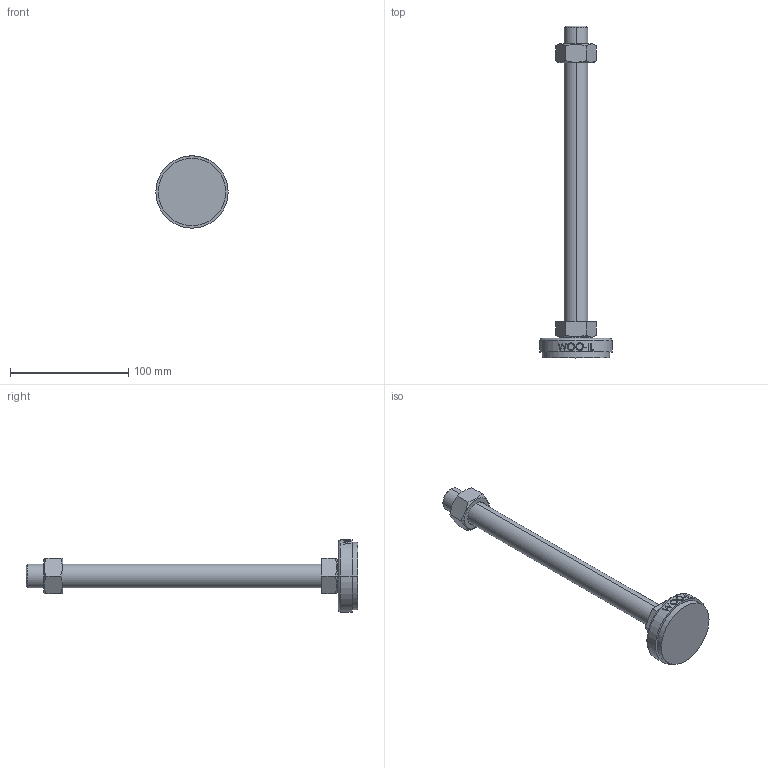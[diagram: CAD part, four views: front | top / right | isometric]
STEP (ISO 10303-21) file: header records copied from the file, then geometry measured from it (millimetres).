
FILE_DESCRIPTION (( 'STEP AP214' ), '1' );
FILE_NAME ('NS61-M20-250.step', '2021-01-11T05:47:00', ( '' ), ( '' ), 'SwSTEP 2.0', 'SolidWorks 2019', '' );
FILE_SCHEMA (( 'AUTOMOTIVE_DESIGN' ));
Length unit declared in the file: millimetre
Products named in the file (2): NS61-M20-250
Bounding box: 61 x 280.5 x 61 mm (x, y, z)
Volume: 142672.2 mm3; surface area: 30835.3 mm2
Topology: 3 solids, 3 shells, 96 faces, 223 edges, 144 vertices
Faces by surface type: plane 48, cylinder 18, bspline 16, cone 12, torus 2
Entity records: 4264 total; most frequent: CARTESIAN_POINT 2139, ORIENTED_EDGE 446, DIRECTION 381, EDGE_CURVE 223, VERTEX_POINT 144, AXIS2_PLACEMENT_3D 142, EDGE_LOOP 109, VECTOR 97
